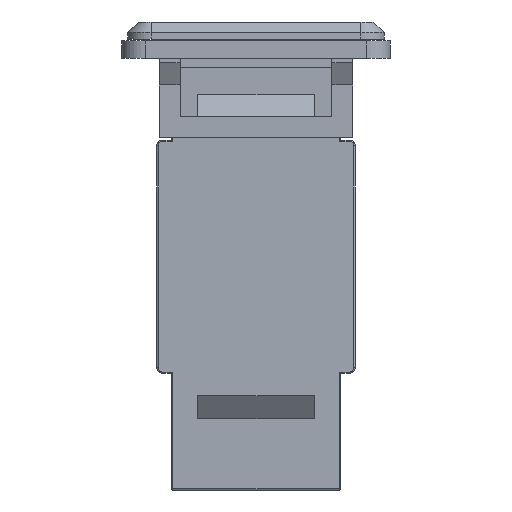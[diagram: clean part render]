
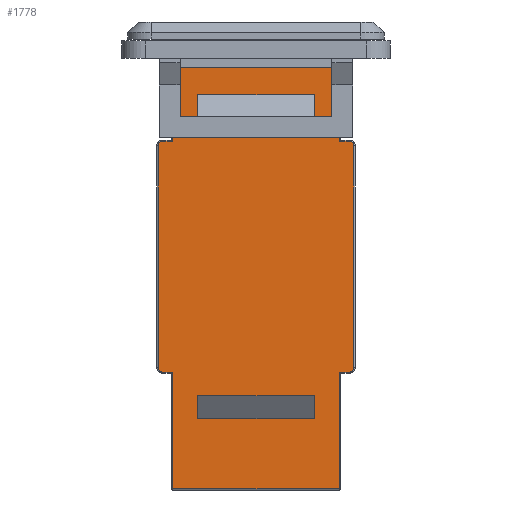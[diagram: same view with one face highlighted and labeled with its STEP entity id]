
A CAD part, left-side view. The second image highlights one B-rep face of the part: STEP entity #1778.
In plain terms, the highlighted planar face has unit normal (-1, 0, 0) as drawn and (0, -1, 0) by its records, which use the part's own axes.
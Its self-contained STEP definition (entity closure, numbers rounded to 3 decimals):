
#1029 = VERTEX_POINT('',#1030);
#1030 = CARTESIAN_POINT('',(-7.15,-8.05,-19.9));
#1037 = EDGE_CURVE('',#1038,#1029,#1040,.T.);
#1038 = VERTEX_POINT('',#1039);
#1039 = CARTESIAN_POINT('',(-7.15,-8.05,-9.9));
#1040 = LINE('',#1041,#1042);
#1041 = CARTESIAN_POINT('',(-7.15,-8.05,-10.));
#1042 = VECTOR('',#1043,1.);
#1043 = DIRECTION('',(-0.,-0.,-1.));
#1112 = EDGE_CURVE('',#1113,#1038,#1115,.T.);
#1113 = VERTEX_POINT('',#1114);
#1114 = CARTESIAN_POINT('',(-8.,-8.05,-9.9));
#1115 = LINE('',#1116,#1117);
#1116 = CARTESIAN_POINT('',(-8.,-8.05,-9.9));
#1117 = VECTOR('',#1118,1.);
#1118 = DIRECTION('',(1.,0.,0.));
#1778 = ADVANCED_FACE('',(#1779,#1897,#1931),#1965,.T.);
#1779 = FACE_BOUND('',#1780,.T.);
#1780 = EDGE_LOOP('',(#1781,#1791,#1798,#1799,#1800,#1808,#1816,#1824,
    #1833,#1841,#1850,#1858,#1866,#1874,#1882,#1890));
#1781 = ORIENTED_EDGE('',*,*,#1782,.F.);
#1782 = EDGE_CURVE('',#1783,#1785,#1787,.T.);
#1783 = VERTEX_POINT('',#1784);
#1784 = CARTESIAN_POINT('',(-8.4,-8.05,-9.5));
#1785 = VERTEX_POINT('',#1786);
#1786 = CARTESIAN_POINT('',(-8.4,-8.05,9.5));
#1787 = LINE('',#1788,#1789);
#1788 = CARTESIAN_POINT('',(-8.4,-8.05,0.));
#1789 = VECTOR('',#1790,1.);
#1790 = DIRECTION('',(0.,0.,1.));
#1791 = ORIENTED_EDGE('',*,*,#1792,.T.);
#1792 = EDGE_CURVE('',#1783,#1113,#1793,.T.);
#1793 = CIRCLE('',#1794,0.4);
#1794 = AXIS2_PLACEMENT_3D('',#1795,#1796,#1797);
#1795 = CARTESIAN_POINT('',(-8.,-8.05,-9.5));
#1796 = DIRECTION('',(0.,-1.,0.));
#1797 = DIRECTION('',(-1.,0.,0.));
#1798 = ORIENTED_EDGE('',*,*,#1112,.T.);
#1799 = ORIENTED_EDGE('',*,*,#1037,.T.);
#1800 = ORIENTED_EDGE('',*,*,#1801,.T.);
#1801 = EDGE_CURVE('',#1029,#1802,#1804,.T.);
#1802 = VERTEX_POINT('',#1803);
#1803 = CARTESIAN_POINT('',(7.15,-8.05,-19.9));
#1804 = LINE('',#1805,#1806);
#1805 = CARTESIAN_POINT('',(-7.25,-8.05,-19.9));
#1806 = VECTOR('',#1807,1.);
#1807 = DIRECTION('',(1.,0.,0.));
#1808 = ORIENTED_EDGE('',*,*,#1809,.F.);
#1809 = EDGE_CURVE('',#1810,#1802,#1812,.T.);
#1810 = VERTEX_POINT('',#1811);
#1811 = CARTESIAN_POINT('',(7.15,-8.05,-9.9));
#1812 = LINE('',#1813,#1814);
#1813 = CARTESIAN_POINT('',(7.15,-8.05,-10.));
#1814 = VECTOR('',#1815,1.);
#1815 = DIRECTION('',(-0.,-0.,-1.));
#1816 = ORIENTED_EDGE('',*,*,#1817,.T.);
#1817 = EDGE_CURVE('',#1810,#1818,#1820,.T.);
#1818 = VERTEX_POINT('',#1819);
#1819 = CARTESIAN_POINT('',(8.,-8.05,-9.9));
#1820 = LINE('',#1821,#1822);
#1821 = CARTESIAN_POINT('',(7.25,-8.05,-9.9));
#1822 = VECTOR('',#1823,1.);
#1823 = DIRECTION('',(1.,0.,0.));
#1824 = ORIENTED_EDGE('',*,*,#1825,.T.);
#1825 = EDGE_CURVE('',#1818,#1826,#1828,.T.);
#1826 = VERTEX_POINT('',#1827);
#1827 = CARTESIAN_POINT('',(8.4,-8.05,-9.5));
#1828 = CIRCLE('',#1829,0.4);
#1829 = AXIS2_PLACEMENT_3D('',#1830,#1831,#1832);
#1830 = CARTESIAN_POINT('',(8.,-8.05,-9.5));
#1831 = DIRECTION('',(0.,-1.,0.));
#1832 = DIRECTION('',(-0.,-0.,-1.));
#1833 = ORIENTED_EDGE('',*,*,#1834,.T.);
#1834 = EDGE_CURVE('',#1826,#1835,#1837,.T.);
#1835 = VERTEX_POINT('',#1836);
#1836 = CARTESIAN_POINT('',(8.4,-8.05,9.5));
#1837 = LINE('',#1838,#1839);
#1838 = CARTESIAN_POINT('',(8.4,-8.05,-9.5));
#1839 = VECTOR('',#1840,1.);
#1840 = DIRECTION('',(0.,0.,1.));
#1841 = ORIENTED_EDGE('',*,*,#1842,.F.);
#1842 = EDGE_CURVE('',#1843,#1835,#1845,.T.);
#1843 = VERTEX_POINT('',#1844);
#1844 = CARTESIAN_POINT('',(8.,-8.05,9.9));
#1845 = CIRCLE('',#1846,0.4);
#1846 = AXIS2_PLACEMENT_3D('',#1847,#1848,#1849);
#1847 = CARTESIAN_POINT('',(8.,-8.05,9.5));
#1848 = DIRECTION('',(0.,1.,0.));
#1849 = DIRECTION('',(0.,-0.,1.));
#1850 = ORIENTED_EDGE('',*,*,#1851,.F.);
#1851 = EDGE_CURVE('',#1852,#1843,#1854,.T.);
#1852 = VERTEX_POINT('',#1853);
#1853 = CARTESIAN_POINT('',(7.15,-8.05,9.9));
#1854 = LINE('',#1855,#1856);
#1855 = CARTESIAN_POINT('',(7.25,-8.05,9.9));
#1856 = VECTOR('',#1857,1.);
#1857 = DIRECTION('',(1.,0.,0.));
#1858 = ORIENTED_EDGE('',*,*,#1859,.T.);
#1859 = EDGE_CURVE('',#1852,#1860,#1862,.T.);
#1860 = VERTEX_POINT('',#1861);
#1861 = CARTESIAN_POINT('',(7.15,-8.05,19.9));
#1862 = LINE('',#1863,#1864);
#1863 = CARTESIAN_POINT('',(7.15,-8.05,10.));
#1864 = VECTOR('',#1865,1.);
#1865 = DIRECTION('',(0.,0.,1.));
#1866 = ORIENTED_EDGE('',*,*,#1867,.F.);
#1867 = EDGE_CURVE('',#1868,#1860,#1870,.T.);
#1868 = VERTEX_POINT('',#1869);
#1869 = CARTESIAN_POINT('',(-7.15,-8.05,19.9));
#1870 = LINE('',#1871,#1872);
#1871 = CARTESIAN_POINT('',(-7.25,-8.05,19.9));
#1872 = VECTOR('',#1873,1.);
#1873 = DIRECTION('',(1.,0.,0.));
#1874 = ORIENTED_EDGE('',*,*,#1875,.F.);
#1875 = EDGE_CURVE('',#1876,#1868,#1878,.T.);
#1876 = VERTEX_POINT('',#1877);
#1877 = CARTESIAN_POINT('',(-7.15,-8.05,9.9));
#1878 = LINE('',#1879,#1880);
#1879 = CARTESIAN_POINT('',(-7.15,-8.05,10.));
#1880 = VECTOR('',#1881,1.);
#1881 = DIRECTION('',(0.,0.,1.));
#1882 = ORIENTED_EDGE('',*,*,#1883,.F.);
#1883 = EDGE_CURVE('',#1884,#1876,#1886,.T.);
#1884 = VERTEX_POINT('',#1885);
#1885 = CARTESIAN_POINT('',(-8.,-8.05,9.9));
#1886 = LINE('',#1887,#1888);
#1887 = CARTESIAN_POINT('',(-8.,-8.05,9.9));
#1888 = VECTOR('',#1889,1.);
#1889 = DIRECTION('',(1.,0.,0.));
#1890 = ORIENTED_EDGE('',*,*,#1891,.F.);
#1891 = EDGE_CURVE('',#1785,#1884,#1892,.T.);
#1892 = CIRCLE('',#1893,0.4);
#1893 = AXIS2_PLACEMENT_3D('',#1894,#1895,#1896);
#1894 = CARTESIAN_POINT('',(-8.,-8.05,9.5));
#1895 = DIRECTION('',(0.,1.,-0.));
#1896 = DIRECTION('',(-1.,0.,0.));
#1897 = FACE_BOUND('',#1898,.T.);
#1898 = EDGE_LOOP('',(#1899,#1909,#1917,#1925));
#1899 = ORIENTED_EDGE('',*,*,#1900,.F.);
#1900 = EDGE_CURVE('',#1901,#1903,#1905,.T.);
#1901 = VERTEX_POINT('',#1902);
#1902 = CARTESIAN_POINT('',(-5.,-8.05,11.9));
#1903 = VERTEX_POINT('',#1904);
#1904 = CARTESIAN_POINT('',(5.,-8.05,11.9));
#1905 = LINE('',#1906,#1907);
#1906 = CARTESIAN_POINT('',(-5.,-8.05,11.9));
#1907 = VECTOR('',#1908,1.);
#1908 = DIRECTION('',(1.,0.,0.));
#1909 = ORIENTED_EDGE('',*,*,#1910,.F.);
#1910 = EDGE_CURVE('',#1911,#1901,#1913,.T.);
#1911 = VERTEX_POINT('',#1912);
#1912 = CARTESIAN_POINT('',(-5.,-8.05,13.9));
#1913 = LINE('',#1914,#1915);
#1914 = CARTESIAN_POINT('',(-5.,-8.05,13.9));
#1915 = VECTOR('',#1916,1.);
#1916 = DIRECTION('',(0.,0.,-1.));
#1917 = ORIENTED_EDGE('',*,*,#1918,.F.);
#1918 = EDGE_CURVE('',#1919,#1911,#1921,.T.);
#1919 = VERTEX_POINT('',#1920);
#1920 = CARTESIAN_POINT('',(5.,-8.05,13.9));
#1921 = LINE('',#1922,#1923);
#1922 = CARTESIAN_POINT('',(5.,-8.05,13.9));
#1923 = VECTOR('',#1924,1.);
#1924 = DIRECTION('',(-1.,0.,0.));
#1925 = ORIENTED_EDGE('',*,*,#1926,.F.);
#1926 = EDGE_CURVE('',#1903,#1919,#1927,.T.);
#1927 = LINE('',#1928,#1929);
#1928 = CARTESIAN_POINT('',(5.,-8.05,11.9));
#1929 = VECTOR('',#1930,1.);
#1930 = DIRECTION('',(0.,0.,1.));
#1931 = FACE_BOUND('',#1932,.T.);
#1932 = EDGE_LOOP('',(#1933,#1943,#1951,#1959));
#1933 = ORIENTED_EDGE('',*,*,#1934,.T.);
#1934 = EDGE_CURVE('',#1935,#1937,#1939,.T.);
#1935 = VERTEX_POINT('',#1936);
#1936 = CARTESIAN_POINT('',(-5.,-8.05,-11.9));
#1937 = VERTEX_POINT('',#1938);
#1938 = CARTESIAN_POINT('',(5.,-8.05,-11.9));
#1939 = LINE('',#1940,#1941);
#1940 = CARTESIAN_POINT('',(-5.,-8.05,-11.9));
#1941 = VECTOR('',#1942,1.);
#1942 = DIRECTION('',(1.,0.,0.));
#1943 = ORIENTED_EDGE('',*,*,#1944,.T.);
#1944 = EDGE_CURVE('',#1937,#1945,#1947,.T.);
#1945 = VERTEX_POINT('',#1946);
#1946 = CARTESIAN_POINT('',(5.,-8.05,-13.9));
#1947 = LINE('',#1948,#1949);
#1948 = CARTESIAN_POINT('',(5.,-8.05,-11.9));
#1949 = VECTOR('',#1950,1.);
#1950 = DIRECTION('',(-0.,0.,-1.));
#1951 = ORIENTED_EDGE('',*,*,#1952,.T.);
#1952 = EDGE_CURVE('',#1945,#1953,#1955,.T.);
#1953 = VERTEX_POINT('',#1954);
#1954 = CARTESIAN_POINT('',(-5.,-8.05,-13.9));
#1955 = LINE('',#1956,#1957);
#1956 = CARTESIAN_POINT('',(5.,-8.05,-13.9));
#1957 = VECTOR('',#1958,1.);
#1958 = DIRECTION('',(-1.,0.,-0.));
#1959 = ORIENTED_EDGE('',*,*,#1960,.T.);
#1960 = EDGE_CURVE('',#1953,#1935,#1961,.T.);
#1961 = LINE('',#1962,#1963);
#1962 = CARTESIAN_POINT('',(-5.,-8.05,-13.9));
#1963 = VECTOR('',#1964,1.);
#1964 = DIRECTION('',(0.,0.,1.));
#1965 = PLANE('',#1966);
#1966 = AXIS2_PLACEMENT_3D('',#1967,#1968,#1969);
#1967 = CARTESIAN_POINT('',(0.,-8.05,0.));
#1968 = DIRECTION('',(-0.,-1.,-0.));
#1969 = DIRECTION('',(0.,0.,-1.));
